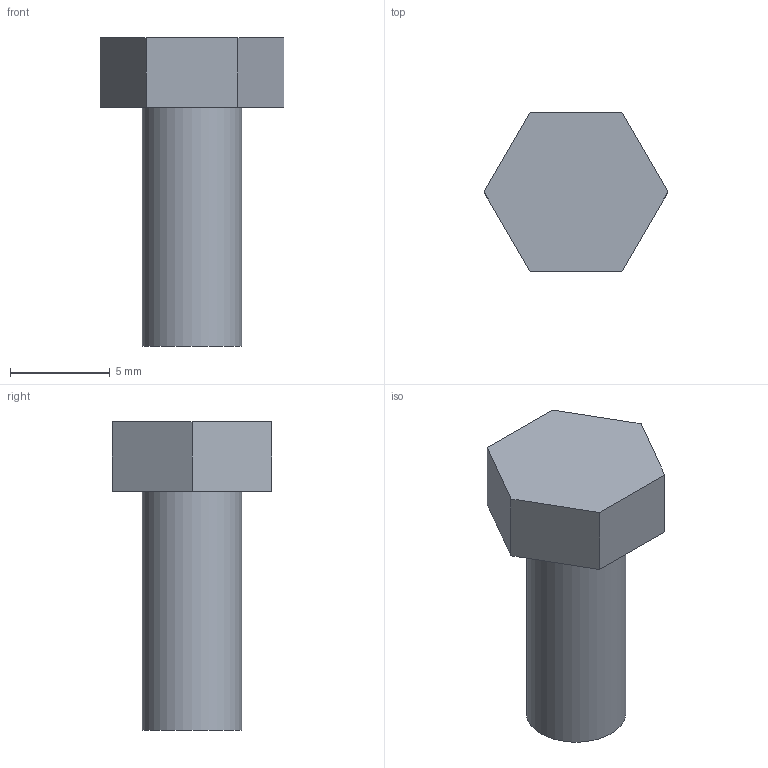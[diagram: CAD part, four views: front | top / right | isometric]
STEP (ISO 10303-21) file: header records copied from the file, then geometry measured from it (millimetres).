
FILE_DESCRIPTION(('Open CASCADE Model'),'2;1');
FILE_NAME('Open CASCADE Shape Model','2026-11-25T12:57:54',('Author'),( 'Open CASCADE'),'Open CASCADE STEP processor 8.0','Open CASCADE 8.0' ,'Unknown');
FILE_SCHEMA(('AP242_MANAGED_MODEL_BASED_3D_ENGINEERING_MIM_LF {1 0 10303 442 1 1 4 }' ));
Length unit declared in the file: millimetre
Products named in the file (1): M5 hex screw · 12 mm
Bounding box: 9.24 x 8 x 15.5 mm (x, y, z)
Volume: 429.6 mm3; surface area: 396.3 mm2
Topology: 1 solids, 1 shells, 10 faces, 21 edges, 14 vertices
Faces by surface type: plane 9, cylinder 1
Full cylindrical faces by diameter (mm): 5 x1
Entity records: 559 total; most frequent: CARTESIAN_POINT 88, DIRECTION 87, LINE 59, VECTOR 59, ORIENTED_EDGE 42, PCURVE 42, DEFINITIONAL_REPRESENTATION 42, EDGE_CURVE 21
